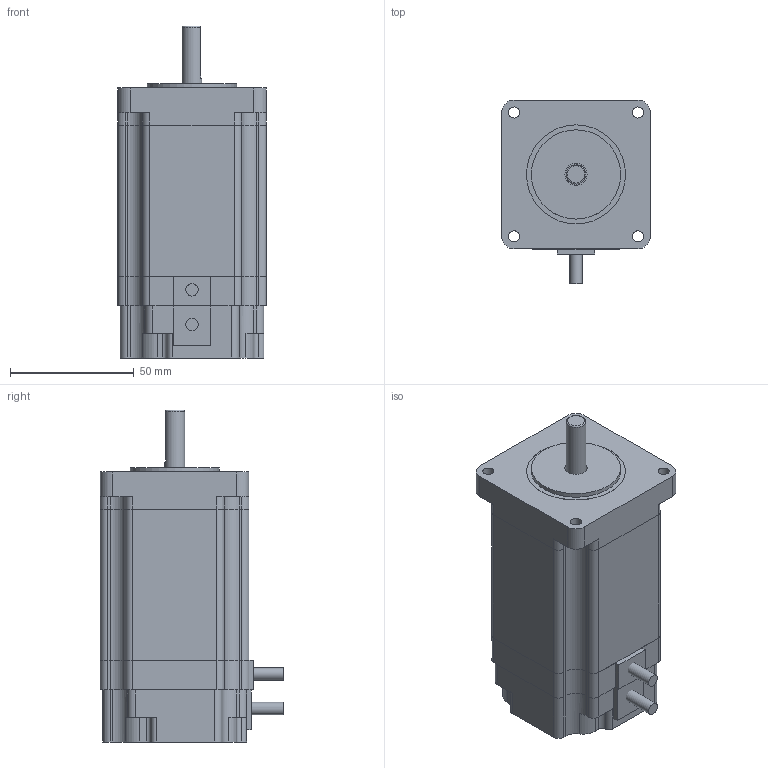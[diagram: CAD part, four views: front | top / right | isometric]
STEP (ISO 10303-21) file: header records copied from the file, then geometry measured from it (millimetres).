
FILE_DESCRIPTION(/* description */ (''),/* implementation_level */ '2;1');
FILE_NAME(/* name */ 'STP-60D5-Y17-01170.stp',/* time_stamp */ '2018-08-31T17:10:23+08:00',/* author */ (''),/* organization */ (''),/* preprocessor_version */ 'ST-DEVELOPER v11',/* originating_system */ 'SIEMENS UGS NX 6.0',/* authorisation */ '');
FILE_SCHEMA (('CONFIG_CONTROL_DESIGN'));
Length unit declared in the file: millimetre
Products named in the file (1): STP-60D5-Y17-01170
Bounding box: 60 x 74 x 134 mm (x, y, z)
Volume: 351005.7 mm3; surface area: 51865.2 mm2
Topology: 6 solids, 6 shells, 165 faces, 445 edges, 296 vertices
Faces by surface type: plane 89, cylinder 74, torus 2
Full cylindrical faces by diameter (mm): 4.5 x4, 5 x2, 8 x1, 9 x1, 36 x1, 40 x1
Entity records: 5323 total; most frequent: CARTESIAN_POINT 973, DIRECTION 919, ORIENTED_EDGE 868, EDGE_CURVE 434, AXIS2_PLACEMENT_3D 323, VERTEX_POINT 295, LINE 273, VECTOR 273
